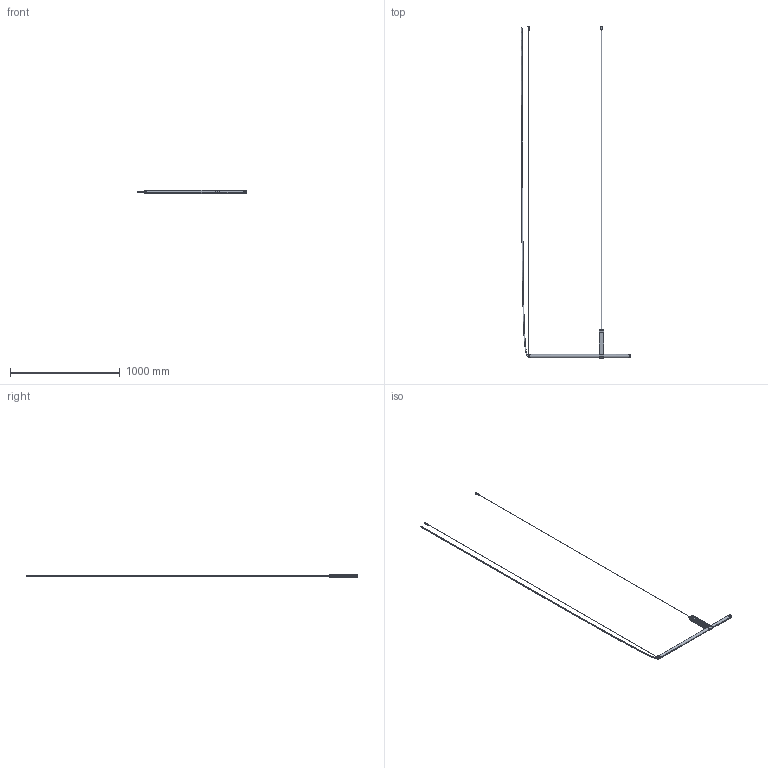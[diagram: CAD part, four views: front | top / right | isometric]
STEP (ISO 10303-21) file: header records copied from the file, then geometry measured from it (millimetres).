
FILE_DESCRIPTION (( 'STEP AP203' ), '1' );
FILE_NAME ('SPPARA01LAXXXXXXX-PER 3D.STEP', '2026-07-07T17:03:17', ( '' ), ( '' ), 'SwSTEP 2.0', 'SolidWorks 2026', '' );
FILE_SCHEMA (( 'CONFIG_CONTROL_DESIGN' ));
Length unit declared in the file: millimetre
Products named in the file (24): ACTESTAC001XXXX REV.02-lungo; SPPARA01LAXXXXXXX-PER 3D; WSCP2E0045-1400-04; ACDISTBIXORXXXX REV.01; WSCA01193000B2830B-lungo; WSCM1I0006-0242-00; WSCP2E0018-1400-03; WSCM1I0008-0242-00; WSCM1I0007-0242-00; WSCP2E0048-1400-03; SS27N L=3000mm-lungo; ACTUXC30EXLA1XX REV.03-CAVI LUNGHI; WSCP2E0014-1400-05; KO13 NERO L=40; WSCP2E0004-1400-06; socket set screw flat point_iso_ISO 4026 - M6 x 8-C; KO13 ROSSO L=40; WSCP2E0030-1400-02; GUAINA SILIC Ø4mm L= 15mm; WSVBPAR091225XX-00; WSCP2E0047-1400-05; WSCA01193000B2830B L=3000mm; WSCP2E0046-1400-03
Assembly tree (25 placements, depth 4):
  SPPARA01LAXXXXXXX-PER 3D
    ACTUXC30EXLA1XX REV.03-CAVI LUNGHI
      WSVBPAR091225XX-00
      WSCP2E0004-1400-06
      WSCP2E0047-1400-05
      WSCP2E0046-1400-03
      WSCP2E0045-1400-04
      KO13 NERO L=40
      KO13 ROSSO L=40
      socket set screw flat point_iso_ISO 4026 - M6 x 8-C
      WSCM1I0006-0242-00
      WSCM1I0007-0242-00
      WSCM1I0008-0242-00
      WSCA01193000B2830B-lungo
      SS27N L=3000mm-lungo
      GUAINA SILIC Ø4mm L= 15mm
      WSCP2E0048-1400-03
      ACDISTBIXORXXXX REV.01
        WSCP2E0014-1400-05
        WSCP2E0018-1400-03
      ACTESTAC001XXXX REV.02-lungo
        WSCP2E0030-1400-02
        WSCA01193000B2830B L=3000mm
        WSCM1I0007-0242-00
        WSCM1I0006-0242-00
        WSCM1I0008-0242-00
Bounding box: 998.93 x 3030.73 x 35.5 mm (x, y, z)
Volume: 437654.3 mm3; surface area: 487898.8 mm2
Topology: 31 solids, 31 shells, 6254 faces, 14656 edges, 8225 vertices
Faces by surface type: cylinder 2511, torus 1570, plane 1090, bspline 827, sphere 172, cone 84
Entity records: 210226 total; most frequent: CARTESIAN_POINT 74213, DIRECTION 29786, ORIENTED_EDGE 27638, EDGE_CURVE 13819, AXIS2_PLACEMENT_3D 12556, VERTEX_POINT 7882, CIRCLE 7283, EDGE_LOOP 6215
